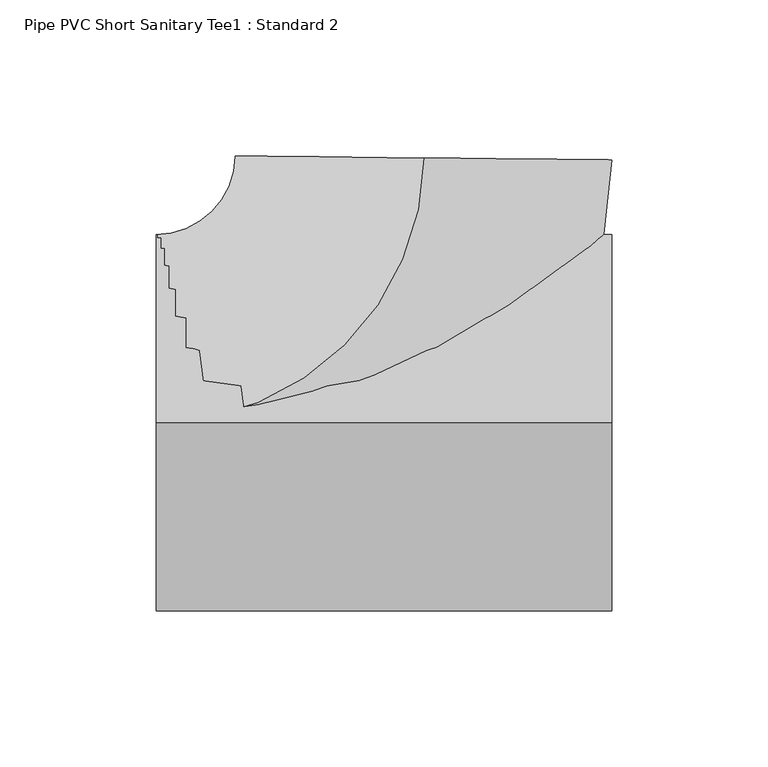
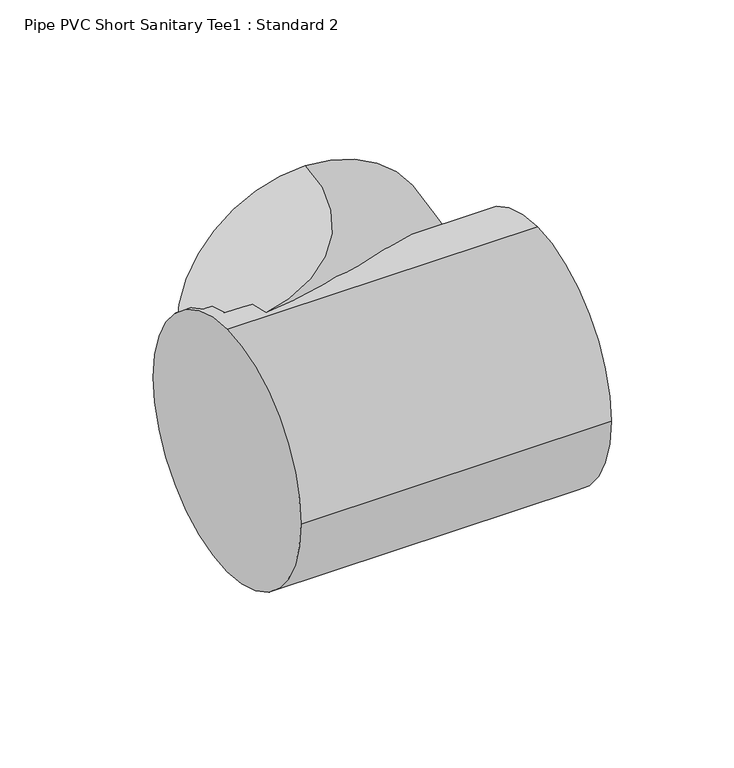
"""IFC4 building model written with IfcOpenShell, lengths in millimetres: pipe fitting geometry, Pipe PVC Short Sanitary Tee1 : Standard 2."""

from ifc_helpers import new_model, si_unit, point, frame, origin, origin_2d, place, context, project, spatial, circle_curve, ellipse_curve, trimmed, segment, composite_curve, outline, extrude, source, transform, mapped, element, save
from ifc_brep_helpers import plane_surface, revolved_surface, advanced_brep


def pipe_pvc_short_sanitary_tee1_standard_2_acb1558a(model_context):
    return source(origin(), model_context, "Body", "SolidModel", [
        extrude(outline(composite_curve([segment(trimmed(circle_curve(origin_2d(), 60.325), [point((0.0, 60.325))], [point((60.325, 0.0))], False, "CARTESIAN"), True, "CONTINUOUS"), segment(trimmed(circle_curve(origin_2d(), 60.325), [point((60.325, 0.0))], [point((0.0, -60.325))], False, "CARTESIAN"), True, "CONTINUOUS"), segment(trimmed(circle_curve(origin_2d(), 60.325), [point((0.0, -60.325))], [point((-60.325, 0.0))], False, "CARTESIAN"), True, "CONTINUOUS"), segment(trimmed(circle_curve(origin_2d(), 60.325), [point((-60.325, 0.0))], [point((0.0, 60.325))], False, "CARTESIAN"), True, "CONTINUOUS")], self_intersect=False)), frame((-84.8369077, 0.0, 0.0), z_axis=(1.0, 0.0, 0.0), x_axis=(0.0, 1.0, 0.0)), (0.0, 0.0, 1.0), 146.0453519),
        advanced_brep(
        [(-84.8369077, 0.0, 60.325), (-84.8369077, 60.325, 0.0), (-84.8369077, 0.0, -60.325), (-84.8369077, -60.325, 0.0), (0.8834442, 84.8323077, 60.325), (61.2051733, 84.2041169, 0.0), (0.8834442, 84.8323077, -60.325), (-59.4382849, 85.4604986, 0.0)],
        [
            (0, 1, circle_curve(frame((-84.8369077, 0.0, 0.0), z_axis=(-1.0, 0.0, 0.0), x_axis=(0.0, 1.0, 0.0)), 60.325)),
            (1, 2, circle_curve(frame((-84.8369077, 0.0, 0.0), z_axis=(-1.0, 0.0, 0.0), x_axis=(0.0, 1.0, 0.0)), 60.325)),
            (2, 3, circle_curve(frame((-84.8369077, 0.0, 0.0), z_axis=(-1.0, 0.0, 0.0), x_axis=(0.0, 1.0, 0.0)), 60.325)),
            (3, 0, circle_curve(frame((-84.8369077, 0.0, 0.0), z_axis=(-1.0, 0.0, 0.0), x_axis=(0.0, 1.0, 0.0)), 60.325)),
            (4, 5, circle_curve(frame((0.8834442, 84.8323077, 0.0), z_axis=(0.010413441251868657, 0.9999457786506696, 0.0), x_axis=(-0.9999457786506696, 0.010413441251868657, 0.0)), 60.325)),
            (5, 6, circle_curve(frame((0.8834442, 84.8323077, 0.0), z_axis=(0.010413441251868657, 0.9999457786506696, 0.0), x_axis=(-0.9999457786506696, 0.010413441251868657, 0.0)), 60.325)),
            (6, 7, circle_curve(frame((0.8834442, 84.8323077, 0.0), z_axis=(0.010413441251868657, 0.9999457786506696, 0.0), x_axis=(-0.9999457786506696, 0.010413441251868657, 0.0)), 60.325)),
            (7, 4, circle_curve(frame((0.8834442, 84.8323077, 0.0), z_axis=(0.010413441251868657, 0.9999457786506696, 0.0), x_axis=(-0.9999457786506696, 0.010413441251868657, 0.0)), 60.325)),
            (7, 1, circle_curve(frame((-84.8369077, 85.725, 0.0), z_axis=(0.0, 0.0, -1.0), x_axis=(0.0, -1.0, 0.0)), 25.4)),
            (0, 4, circle_curve(frame((-84.8369077, 85.725, 60.325), z_axis=(0.0, 0.0, 1.0), x_axis=(0.0, -1.0, 0.0)), 85.725)),
            (6, 2, circle_curve(frame((-84.8369077, 85.725, -60.325), z_axis=(0.0, 0.0, -1.0), x_axis=(0.0, -1.0, 0.0)), 85.725)),
            (5, 3, circle_curve(frame((-84.8369077, 85.725, 0.0), z_axis=(0.0, 0.0, -1.0), x_axis=(0.0, -1.0, 0.0)), 146.05)),
        ],
        [
            plane_surface(frame((-84.8369077, 0.0, 0.0), z_axis=(-1.0, 0.0, 0.0), x_axis=(0.0, 0.0, 1.0))),
            plane_surface(frame((0.8834442, 84.8323077, 0.0), z_axis=(0.01041344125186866, 0.9999457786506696, 0.0), x_axis=(0.0, 0.0, 1.0))),
            revolved_surface(trimmed(ellipse_curve(frame((-84.8369077, 0.0, 0.0), z_axis=(-1.0, 0.0, 0.0), x_axis=(0.0, 1.0, 0.0)), 60.325, 60.325), [point((-84.8369077, 0.0, 60.325))], [point((-84.8369077, 60.325, 0.0))], True, "CARTESIAN"), (-84.8369077, 85.725, 0.0), (0.0, 0.0, 1.0)),
            revolved_surface(trimmed(ellipse_curve(frame((-84.8369077, 0.0, 0.0), z_axis=(-1.0, 0.0, 0.0), x_axis=(0.0, 1.0, 0.0)), 60.325, 60.325), [point((-84.8369077, 60.325, 0.0))], [point((-84.8369077, 0.0, -60.325))], True, "CARTESIAN"), (-84.8369077, 85.725, 0.0), (0.0, 0.0, 1.0)),
            revolved_surface(trimmed(ellipse_curve(frame((-84.8369077, 0.0, 0.0), z_axis=(-1.0, 0.0, 0.0), x_axis=(0.0, 1.0, 0.0)), 60.325, 60.325), [point((-84.8369077, 0.0, -60.325))], [point((-84.8369077, -60.325, 0.0))], True, "CARTESIAN"), (-84.8369077, 85.725, 0.0), (0.0, 0.0, 1.0)),
            revolved_surface(trimmed(ellipse_curve(frame((-84.8369077, 0.0, 0.0), z_axis=(-1.0, 0.0, 0.0), x_axis=(0.0, 1.0, 0.0)), 60.325, 60.325), [point((-84.8369077, -60.325, 0.0))], [point((-84.8369077, 0.0, 60.325))], True, "CARTESIAN"), (-84.8369077, 85.725, 0.0), (0.0, 0.0, 1.0)),
        ],
        [
            (0, [[1, 2, 3, 4]]),
            (1, [[5, 6, 7, 8]]),
            (2, [[9, -1, 10, -8]]),
            (3, [[11, -2, -9, -7]]),
            (4, [[12, -3, -11, -6]]),
            (5, [[-10, -4, -12, -5]]),
        ],
    ),
        advanced_brep(
        [(-84.8369077, 0.0, 60.325), (-84.8369077, 60.325, 0.0), (-84.8369077, 0.0, -60.325), (-84.8369077, -60.325, 0.0), (0.8834442, 84.8323077, 60.325), (61.2051733, 84.2041169, 0.0), (0.8834442, 84.8323077, -60.325), (-59.4382849, 85.4604986, 0.0)],
        [
            (0, 1, circle_curve(frame((-84.8369077, 0.0, 0.0), z_axis=(-1.0, 0.0, 0.0), x_axis=(0.0, 1.0, 0.0)), 60.325)),
            (1, 2, circle_curve(frame((-84.8369077, 0.0, 0.0), z_axis=(-1.0, 0.0, 0.0), x_axis=(0.0, 1.0, 0.0)), 60.325)),
            (2, 3, circle_curve(frame((-84.8369077, 0.0, 0.0), z_axis=(-1.0, 0.0, 0.0), x_axis=(0.0, 1.0, 0.0)), 60.325)),
            (3, 0, circle_curve(frame((-84.8369077, 0.0, 0.0), z_axis=(-1.0, 0.0, 0.0), x_axis=(0.0, 1.0, 0.0)), 60.325)),
            (4, 5, circle_curve(frame((0.8834442, 84.8323077, 0.0), z_axis=(0.010413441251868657, 0.9999457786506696, 0.0), x_axis=(-0.9999457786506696, 0.010413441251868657, 0.0)), 60.325)),
            (5, 6, circle_curve(frame((0.8834442, 84.8323077, 0.0), z_axis=(0.010413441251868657, 0.9999457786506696, 0.0), x_axis=(-0.9999457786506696, 0.010413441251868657, 0.0)), 60.325)),
            (6, 7, circle_curve(frame((0.8834442, 84.8323077, 0.0), z_axis=(0.010413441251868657, 0.9999457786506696, 0.0), x_axis=(-0.9999457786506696, 0.010413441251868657, 0.0)), 60.325)),
            (7, 4, circle_curve(frame((0.8834442, 84.8323077, 0.0), z_axis=(0.010413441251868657, 0.9999457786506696, 0.0), x_axis=(-0.9999457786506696, 0.010413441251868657, 0.0)), 60.325)),
            (7, 1, circle_curve(frame((-84.8369077, 85.725, 0.0), z_axis=(0.0, 0.0, -1.0), x_axis=(0.0, -1.0, 0.0)), 25.4)),
            (0, 4, circle_curve(frame((-84.8369077, 85.725, 60.325), z_axis=(0.0, 0.0, 1.0), x_axis=(0.0, -1.0, 0.0)), 85.725)),
            (6, 2, circle_curve(frame((-84.8369077, 85.725, -60.325), z_axis=(0.0, 0.0, -1.0), x_axis=(0.0, -1.0, 0.0)), 85.725)),
            (5, 3, circle_curve(frame((-84.8369077, 85.725, 0.0), z_axis=(0.0, 0.0, -1.0), x_axis=(0.0, -1.0, 0.0)), 146.05)),
        ],
        [
            plane_surface(frame((-84.8369077, 0.0, 0.0), z_axis=(-1.0, 0.0, 0.0), x_axis=(0.0, 0.0, 1.0))),
            plane_surface(frame((0.8834442, 84.8323077, 0.0), z_axis=(0.01041344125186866, 0.9999457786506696, 0.0), x_axis=(0.0, 0.0, 1.0))),
            revolved_surface(trimmed(ellipse_curve(frame((-84.8369077, 0.0, 0.0), z_axis=(-1.0, 0.0, 0.0), x_axis=(0.0, 1.0, 0.0)), 60.325, 60.325), [point((-84.8369077, 0.0, 60.325))], [point((-84.8369077, 60.325, 0.0))], True, "CARTESIAN"), (-84.8369077, 85.725, 0.0), (0.0, 0.0, 1.0)),
            revolved_surface(trimmed(ellipse_curve(frame((-84.8369077, 0.0, 0.0), z_axis=(-1.0, 0.0, 0.0), x_axis=(0.0, 1.0, 0.0)), 60.325, 60.325), [point((-84.8369077, 60.325, 0.0))], [point((-84.8369077, 0.0, -60.325))], True, "CARTESIAN"), (-84.8369077, 85.725, 0.0), (0.0, 0.0, 1.0)),
            revolved_surface(trimmed(ellipse_curve(frame((-84.8369077, 0.0, 0.0), z_axis=(-1.0, 0.0, 0.0), x_axis=(0.0, 1.0, 0.0)), 60.325, 60.325), [point((-84.8369077, 0.0, -60.325))], [point((-84.8369077, -60.325, 0.0))], True, "CARTESIAN"), (-84.8369077, 85.725, 0.0), (0.0, 0.0, 1.0)),
            revolved_surface(trimmed(ellipse_curve(frame((-84.8369077, 0.0, 0.0), z_axis=(-1.0, 0.0, 0.0), x_axis=(0.0, 1.0, 0.0)), 60.325, 60.325), [point((-84.8369077, -60.325, 0.0))], [point((-84.8369077, 0.0, 60.325))], True, "CARTESIAN"), (-84.8369077, 85.725, 0.0), (0.0, 0.0, 1.0)),
        ],
        [
            (0, [[1, 2, 3, 4]]),
            (1, [[5, 6, 7, 8]]),
            (2, [[9, -1, 10, -8]]),
            (3, [[11, -2, -9, -7]]),
            (4, [[12, -3, -11, -6]]),
            (5, [[-10, -4, -12, -5]]),
        ],
    ),
        extrude(outline(composite_curve([segment(trimmed(circle_curve(origin_2d(), 60.325), [point((0.0, 60.325))], [point((60.325, 0.0))], False, "CARTESIAN"), True, "CONTINUOUS"), segment(trimmed(circle_curve(origin_2d(), 60.325), [point((60.325, 0.0))], [point((0.0, -60.325))], False, "CARTESIAN"), True, "CONTINUOUS"), segment(trimmed(circle_curve(origin_2d(), 60.325), [point((0.0, -60.325))], [point((-60.325, 0.0))], False, "CARTESIAN"), True, "CONTINUOUS"), segment(trimmed(circle_curve(origin_2d(), 60.325), [point((-60.325, 0.0))], [point((0.0, 60.325))], False, "CARTESIAN"), True, "CONTINUOUS")], self_intersect=False)), frame((-84.8369077, 0.0, 0.0), z_axis=(1.0, 0.0, 0.0), x_axis=(0.0, 1.0, 0.0)), (0.0, 0.0, 1.0), 146.0453519),
    ])


if __name__ == "__main__":
    model = new_model("IFC4")
    model_context = context("Model", 3, world=origin())
    ifc_project = project(units=[si_unit("LENGTHUNIT", "METRE", prefix="MILLI")], contexts=[model_context])
    site = spatial("IfcSite", under=ifc_project)
    building = spatial("IfcBuilding", under=site)
    placement = place(None, origin())
    pipe_pvc_short_sanitary_tee1_standard_2_shape = pipe_pvc_short_sanitary_tee1_standard_2_acb1558a(model_context)
    element("IfcPipeFitting", 1, ObjectType="Pipe PVC Short Sanitary Tee1 : Standard 2", at=placement, inside=building, context=model_context, shape_type="MappedRepresentation", body=[
        mapped(pipe_pvc_short_sanitary_tee1_standard_2_shape, transform((0.0, 0.0, 0.0), x_axis=(1.0, 0.0, 0.0), y_axis=(0.0, 1.0, 0.0), z_axis=(0.0, 0.0, 1.0))),
    ])
    save(model, "model.ifc")
